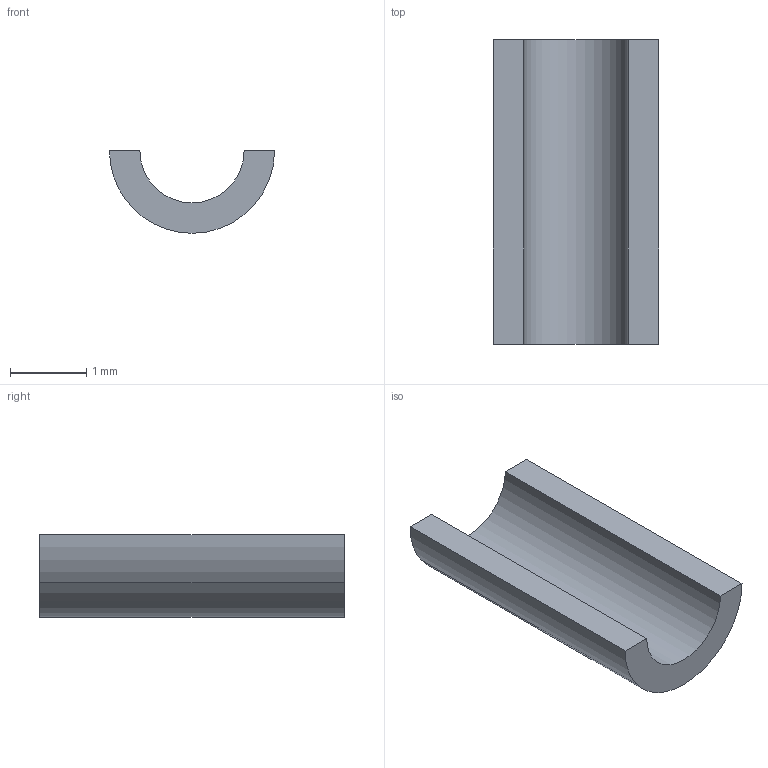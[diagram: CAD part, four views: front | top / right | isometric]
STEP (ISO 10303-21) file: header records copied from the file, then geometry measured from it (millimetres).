
FILE_DESCRIPTION(('Open CASCADE Model'),'2;1');
FILE_NAME('R36_STOCK_COAX_UNBONDED_HALF_SADDLE_2_0p40_INSTALLED', '2026-09-15T14:35:45',('Author'),('Open CASCADE'), 'Open CASCADE STEP processor 7.9','build123d','Unknown');
FILE_SCHEMA(('AUTOMOTIVE_DESIGN { 1 0 10303 214 1 1 1 1 }'));
Length unit declared in the file: millimetre
Products named in the file (1): R36_STOCK_COAX_UNBONDED_HALF_SADDLE_2_0p40_INSTALLED
Bounding box: 2.17 x 4 x 1.08 mm (x, y, z)
Volume: 4.4 mm3; surface area: 27.7 mm2
Topology: 1 solids, 1 shells, 8 faces, 18 edges, 12 vertices
Faces by surface type: cylinder 4, plane 4
Entity records: 466 total; most frequent: CARTESIAN_POINT 83, DIRECTION 72, ORIENTED_EDGE 36, PCURVE 36, DEFINITIONAL_REPRESENTATION 36, LINE 30, VECTOR 30, EDGE_CURVE 18
